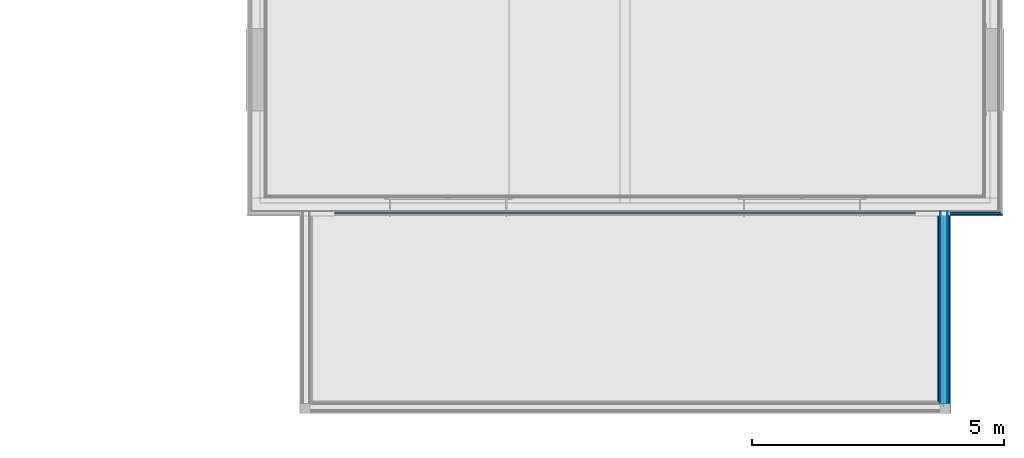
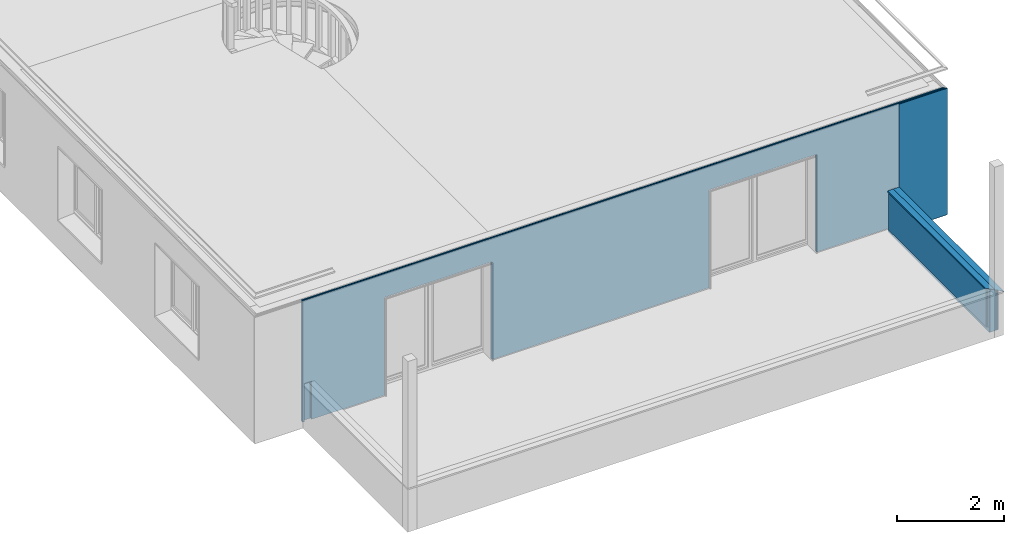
# One storey, part 15 of 36: 14 building element parts, 2 openings, 6 elements without a shape of their own.
"""IFC4 building model written with IfcOpenShell, lengths in millimetres."""

import ifcopenshell
import ifcopenshell.guid

model = None  # the IFC model being written
_history = None  # IfcOwnerHistory: only IFC2X3 demands one
_inside = {}  # id of a spatial element -> (the spatial element, [elements in it])
_under = {}  # id of a project, library or spatial element -> (it, [spatial elements below it])
_declared = {}  # id of a project -> (the project, [libraries it declares])
_typed = {}  # id of a type object -> (the type object, [elements of that type])
_made_of = {}  # id of a material, layer set ... -> (it, [elements and type objects made of it])


def new_model(schema):
    """Start an empty IFC model of exactly this schema.

    Asked for "IFC4X3", IfcOpenShell would pick the latest addendum, in which some entities
    have other attributes; the version numbers below select the first issue.
    IFC2X3 requires an IfcOwnerHistory on every rooted entity: one is made here for all.
    """
    global model, _history
    if schema == "IFC4X3":
        model = ifcopenshell.file(schema_version=(4, 3, 0, 0))
    else:
        model = ifcopenshell.file(schema=schema)
    _inside.clear()
    _under.clear()
    _declared.clear()
    _typed.clear()
    _made_of.clear()
    _history = None
    if model.schema == "IFC2X3":
        org = make("IfcOrganization", Name="unknown")
        user = make(
            "IfcPersonAndOrganization",
            ThePerson=make("IfcPerson", FamilyName="unknown"),
            TheOrganization=org,
        )
        app = make(
            "IfcApplication",
            ApplicationDeveloper=org,
            Version="unknown",
            ApplicationFullName="unknown",
            ApplicationIdentifier="unknown",
        )
        _history = make(
            "IfcOwnerHistory",
            OwningUser=user,
            OwningApplication=app,
            ChangeAction="ADDED",
            CreationDate=0,
        )
    return model


def make(cls, **values):
    """One entity of the class cls with the attributes given. An attribute that is None is left unset."""
    return model.create_entity(
        cls, **{name: value for name, value in values.items() if value is not None}
    )


def entity(cls, *values):
    """Any entity or typed value of the class cls, its attributes in the order of the schema. None: left unset."""
    e = model.create_entity(cls)
    for i, value in enumerate(values):
        if value is not None:
            e[i] = value
    return e


def rooted(cls, **values):
    """An entity with a GlobalId (a new one), such as an element, a storey or a relation."""
    return make(cls, GlobalId=ifcopenshell.guid.new(), OwnerHistory=_history, **values)


def si_unit(unit_type, name, prefix=None):
    """IfcSIUnit, for example si_unit("LENGTHUNIT", "METRE", prefix="MILLI")."""
    return make("IfcSIUnit", UnitType=unit_type, Prefix=prefix, Name=name)


def converted_unit(unit_type, name, factor, base, dimensions=None, offset=None):
    """IfcConversionBasedUnit, such as the inch: factor (a typed value) times the base unit."""
    return make(
        "IfcConversionBasedUnit"
        if offset is None
        else "IfcConversionBasedUnitWithOffset",
        ConversionOffset=offset,
        Dimensions=None
        if dimensions is None
        else entity("IfcDimensionalExponents", *dimensions),
        UnitType=unit_type,
        Name=name,
        ConversionFactor=make(
            "IfcMeasureWithUnit", ValueComponent=factor, UnitComponent=base
        ),
    )


def derived_unit(unit_type, elements):
    """IfcDerivedUnit: a product of units, each with its exponent."""
    return make(
        "IfcDerivedUnit",
        Elements=[
            make("IfcDerivedUnitElement", Unit=unit, Exponent=power)
            for unit, power in elements
        ],
        UnitType=unit_type,
    )


def assignment(units):
    """IfcUnitAssignment: the units of a project."""
    return None if units is None else make("IfcUnitAssignment", Units=units)


def point(xyz):
    """IfcCartesianPoint."""
    return None if xyz is None else make("IfcCartesianPoint", Coordinates=xyz)


def direction(xyz):
    """IfcDirection."""
    return None if xyz is None else make("IfcDirection", DirectionRatios=xyz)


def frame(location, z_axis=None, x_axis=None):
    """IfcAxis2Placement3D, a coordinate frame: its origin and axes. An axis left out is left unset."""
    return make(
        "IfcAxis2Placement3D",
        Location=point(location),
        Axis=direction(z_axis),
        RefDirection=direction(x_axis),
    )


def origin_with_axes():
    """The frame at (0, 0, 0) with the z axis (0, 0, 1) and the x axis (1, 0, 0) written out."""
    return frame((0.0, 0.0, 0.0), z_axis=(0.0, 0.0, 1.0), x_axis=(1.0, 0.0, 0.0))


def place(relative_to, where):
    """IfcLocalPlacement: puts the frame where relative to a parent placement (None: the world)."""
    return make(
        "IfcLocalPlacement", PlacementRelTo=relative_to, RelativePlacement=where
    )


def context(
    kind, dimensions, precision=None, world=None, true_north=None, identifier=None
):
    """IfcGeometricRepresentationContext, for example the 3D "Model" context."""
    return make(
        "IfcGeometricRepresentationContext",
        ContextIdentifier=identifier,
        ContextType=kind,
        CoordinateSpaceDimension=dimensions,
        Precision=precision,
        WorldCoordinateSystem=world,
        TrueNorth=true_north,
    )


def subcontext(parent, identifier, kind, view, scale=None):
    """IfcGeometricRepresentationSubContext, for example "Body" below "Model"."""
    return make(
        "IfcGeometricRepresentationSubContext",
        ContextIdentifier=identifier,
        ContextType=kind,
        ParentContext=parent,
        TargetScale=scale,
        TargetView=view,
    )


def project(units=None, contexts=None):
    """IfcProject with its units and contexts."""
    return rooted(
        "IfcProject",
        Name="project",
        RepresentationContexts=contexts,
        UnitsInContext=assignment(units),
    )


def spatial(cls, under=None, at=None, **own):
    """A site, building, storey or space (cls), placed at a placement, below another one or the project."""
    s = rooted(cls, ObjectPlacement=at, **own)
    if under is not None:
        _under.setdefault(under.id(), (under, []))[1].append(s)
    return s


def point_list(points):
    """IfcCartesianPointList2D or 3D."""
    cls = (
        "IfcCartesianPointList2D" if len(points[0]) == 2 else "IfcCartesianPointList3D"
    )
    return make(cls, CoordList=points)


def polygons(points, faces, closed=None, point_numbers=None):
    """IfcPolygonalFaceSet: a face is its outer loop, then its inner loops; points numbered from 1."""
    made = []
    for loops in faces:
        if len(loops) == 1:
            made.append(make("IfcIndexedPolygonalFace", CoordIndex=loops[0]))
        else:
            made.append(
                make(
                    "IfcIndexedPolygonalFaceWithVoids",
                    CoordIndex=loops[0],
                    InnerCoordIndices=loops[1:],
                )
            )
    return make(
        "IfcPolygonalFaceSet",
        Coordinates=point_list(points),
        Closed=closed,
        Faces=made,
        PnIndex=point_numbers,
    )


def shape(context_of_items, identifier, shape_type, items):
    """IfcShapeRepresentation: the items that make up one representation, for example the "Body"."""
    return make(
        "IfcShapeRepresentation",
        ContextOfItems=context_of_items,
        RepresentationIdentifier=identifier,
        RepresentationType=shape_type,
        Items=items,
    )


def material(Name=None, Category=None):
    """IfcMaterial."""
    return make("IfcMaterial", Name=Name, Category=Category)


def made_of(thing, what):
    """Note that an element or type object is made of a material, layer set ...; save() writes the relation."""
    if what is not None:
        _made_of.setdefault(what.id(), (what, []))[1].append(thing)
    return thing


def type_object(cls, material=None, **own):
    """A type object (cls), such as IfcWallType, which elements share."""
    return made_of(rooted(cls, **own), material)


def element(
    cls,
    number,
    at=None,
    inside=None,
    cuts=None,
    type_object=None,
    material=None,
    context=None,
    identifier="Body",
    shape_type=None,
    held_by="IfcProductDefinitionShape",
    body=None,
    shapes=None,
    **own,
):
    """One element of the class cls, such as IfcWall. Its Tag is "e" and its number.

    at: its placement. inside: the storey or other place that contains it. cuts: it is an
    opening in that element (IfcRelVoidsElement). A single representation is given by context,
    identifier, shape_type and body (its items); several are given by shapes. held_by: the class
    of the entity that holds the representations. save() writes the other relations.
    """
    e = rooted(cls, Tag="e%d" % number, ObjectPlacement=at, **own)
    if body is not None:
        shapes = [shape(context, identifier, shape_type, body)]
    if shapes is not None:
        e.Representation = make(held_by, Representations=shapes)
    if inside is not None:
        _inside.setdefault(inside.id(), (inside, []))[1].append(e)
    if cuts is not None:
        rooted(
            "IfcRelVoidsElement", RelatingBuildingElement=cuts, RelatedOpeningElement=e
        )
    if type_object is not None:
        _typed.setdefault(type_object.id(), (type_object, []))[1].append(e)
    return made_of(e, material)


def aggregate(whole, parts):
    """IfcRelAggregates: a whole, such as a stair, and the parts it consists of."""
    return rooted("IfcRelAggregates", RelatingObject=whole, RelatedObjects=parts)


def save(model, path):
    """Write the relations noted so far, then the file.

    IfcRelAggregates (storeys below a building ...), IfcRelContainedInSpatialStructure (elements
    in a storey), IfcRelDefinesByType, IfcRelAssociatesMaterial and IfcRelDeclares: one each for
    every whole, place, type object, material and project.
    """
    for whole, parts in _under.values():
        aggregate(whole, parts)
    for where, things in _inside.values():
        rooted(
            "IfcRelContainedInSpatialStructure",
            RelatedElements=things,
            RelatingStructure=where,
        )
    for kind, things in _typed.values():
        rooted("IfcRelDefinesByType", RelatedObjects=things, RelatingType=kind)
    for what, things in _made_of.values():
        rooted("IfcRelAssociatesMaterial", RelatedObjects=things, RelatingMaterial=what)
    for by, libraries in _declared.values():
        rooted("IfcRelDeclares", RelatingContext=by, RelatedDefinitions=libraries)
    model.write(path)


model = new_model("IFC4")

# Units and contexts
model_context = context("Model", 3, precision=0.01, world=origin_with_axes(), true_north=direction((0.0, 1.0)))
body_context = subcontext(model_context, "Body", "Model", "MODEL_VIEW")
ifc_project = project(units=[si_unit("LENGTHUNIT", "METRE", prefix="MILLI"), si_unit("AREAUNIT", "SQUARE_METRE"), si_unit("VOLUMEUNIT", "CUBIC_METRE"), converted_unit("PLANEANGLEUNIT", "DEGREE", entity("IfcPlaneAngleMeasure", 0.0174532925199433), si_unit("PLANEANGLEUNIT", "RADIAN"), dimensions=[0, 0, 0, 0, 0, 0, 0]), converted_unit("TIMEUNIT", "Year", entity("IfcTimeMeasure", 31557600.0), si_unit("TIMEUNIT", "SECOND"), dimensions=[0, 0, 1, 0, 0, 0, 0]), si_unit("MASSUNIT", "GRAM", prefix="KILO"), si_unit("THERMODYNAMICTEMPERATUREUNIT", "DEGREE_CELSIUS"), si_unit("LUMINOUSINTENSITYUNIT", "LUMEN"), si_unit("ENERGYUNIT", "JOULE", prefix="MEGA"), derived_unit("THERMALCONDUCTANCEUNIT", [(si_unit("POWERUNIT", "WATT"), 1), (si_unit("LENGTHUNIT", "METRE"), -1), (si_unit("THERMODYNAMICTEMPERATUREUNIT", "KELVIN"), -1)]), derived_unit("SPECIFICHEATCAPACITYUNIT", [(si_unit("ENERGYUNIT", "JOULE"), 1), (si_unit("MASSUNIT", "GRAM", prefix="KILO"), -1), (si_unit("THERMODYNAMICTEMPERATUREUNIT", "KELVIN"), -1)]), derived_unit("MASSDENSITYUNIT", [(si_unit("MASSUNIT", "GRAM", prefix="KILO"), 1), (si_unit("VOLUMEUNIT", "CUBIC_METRE"), -1)])], contexts=[model_context])

# Site, building, storey
site_placement = place(None, origin_with_axes())
site = spatial("IfcSite", under=ifc_project, at=site_placement, Name="Gelände", CompositionType="ELEMENT")
building_placement = place(site_placement, origin_with_axes())
building = spatial("IfcBuilding", under=site, at=building_placement, Name="Gebäude", CompositionType="ELEMENT")
storey_placement = place(building_placement, frame((0.0, 0.0, 8700.0), z_axis=(0.0, 0.0, 1.0), x_axis=(1.0, 0.0, 0.0)))
storey = spatial("IfcBuildingStorey", under=building, at=storey_placement, Name="Attika", CompositionType="ELEMENT", Elevation=8700.0)

# Curtain wall, openings, building element parts
curtain_wall_type_1 = type_object("IfcCurtainWallType", Name="Fassade Typ 02 - Vertikale Schalung 71", PredefinedType="NOTDEFINED")
curtain_wall_1_placement = place(storey_placement, frame((31882.9974188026, 8447.597281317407, 620.000000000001), z_axis=(0.0, 0.0, 1.0), x_axis=(-1.0, 0.0, 0.0)))
curtain_wall_1 = element("IfcCurtainWall", 1, at=curtain_wall_1_placement, inside=storey, type_object=curtain_wall_type_1, Name="Wand-014", PredefinedType="NOTDEFINED")
opening_1_placement = place(curtain_wall_1_placement, frame((9967.33330736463, 0.0, -9.124079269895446e-08), z_axis=(0.0, 0.0, 1.0), x_axis=(1.0, 0.0, 0.0)))
element("IfcOpeningElement", 2, at=opening_1_placement, cuts=curtain_wall_1, Name="Fenster-004", context=body_context, identifier="Reference", shape_type="Tessellation", body=[
    polygons([(1166.000000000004, 1.000000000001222, 2241.000000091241), (1166.000000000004, 1.000000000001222, 9.124079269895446e-08), (-1166.000000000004, 1.000000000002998, 9.124079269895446e-08), (-1166.000000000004, 1.000000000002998, 2241.000000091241), (1166.000000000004, -72.00000000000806, 2241.000000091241), (1166.000000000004, -72.00000000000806, 9.124079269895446e-08), (-1166.000000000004, -72.00000000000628, 9.124079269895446e-08), (-1166.000000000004, -72.00000000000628, 2241.000000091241)], [[[1, 2, 3, 4]], [[5, 6, 2, 1]], [[6, 7, 3, 2]], [[7, 8, 4, 3]], [[8, 5, 1, 4]], [[7, 6, 5, 8]]], closed=True),
])
opening_2_placement = place(curtain_wall_1_placement, frame((2940.666641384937, 0.0, -9.124079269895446e-08), z_axis=(0.0, 0.0, 1.0), x_axis=(1.0, 0.0, 0.0)))
element("IfcOpeningElement", 3, at=opening_2_placement, cuts=curtain_wall_1, Name="Fenster-004", context=body_context, identifier="Reference", shape_type="Tessellation", body=[
    polygons([(1166.0, 1.000000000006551, 2241.000000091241), (1166.0, 1.000000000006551, 9.124079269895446e-08), (-1166.0, 1.000000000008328, 9.124079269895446e-08), (-1166.0, 1.000000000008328, 2241.000000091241), (1166.0, -72.00000000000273, 2241.000000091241), (1166.0, -72.00000000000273, 9.124079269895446e-08), (-1166.0, -72.00000000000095, 9.124079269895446e-08), (-1166.0, -72.00000000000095, 2241.000000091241)], [[[1, 2, 3, 4]], [[5, 6, 2, 1]], [[6, 7, 3, 2]], [[7, 8, 4, 3]], [[8, 5, 1, 4]], [[7, 6, 5, 8]]], closed=True),
])
ifc_material_1 = material(Name="Lattenrost horizontal")
building_element_part_1_placement = place(curtain_wall_1_placement, origin_with_axes())
building_element_part_1 = element("IfcBuildingElementPart", 4, at=building_element_part_1_placement, material=ifc_material_1, Name="Lattenrost horizontal", PredefinedType="NOTDEFINED", context=body_context, shape_type="Tessellation", body=[
    polygons([(4106.666641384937, -45.99999999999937, 2241.0), (4106.666641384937, -45.99999999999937, 0.09989593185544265), (4106.666641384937, -45.99999999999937, 0.0), (8801.33330736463, -46.00000000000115, 0.0), (8801.333307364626, -45.99999999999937, 0.09989593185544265), (8801.333307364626, -45.99999999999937, 2241.0), (11133.33330736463, -45.99999999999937, 2241.0), (11133.33330736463, -45.99999999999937, 0.09989593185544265), (11133.33330736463, -46.00000000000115, 0.0), (12711.9999234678, -46.00000000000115, 0.0), (12711.9999234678, -46.00000000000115, 879.9998959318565), (12861.9999234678, -46.00000000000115, 879.9998959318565), (12861.9999234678, -46.00000000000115, 0.0), (12907.99994874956, -46.00000000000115, 0.0), (12907.99994874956, -46.00000000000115, 2780.000000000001), (0.0, -45.99999999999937, 2780.000000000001), (0.0, -45.99999999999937, 0.0), (46.00002528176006, -45.99999999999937, 0.0), (46.00002528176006, -45.99999999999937, 879.9998959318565), (196.0000252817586, -45.99999999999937, 879.9998959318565), (196.0000252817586, -45.99999999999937, 0.0), (1774.666641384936, -45.99999999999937, 0.0), (1774.666641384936, -45.99999999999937, 0.09989593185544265), (1774.666641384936, -45.99999999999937, 2241.0), (4106.666641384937, -21.0000000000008, 2241.0), (4106.666641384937, -21.0000000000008, 0.09989593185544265), (4106.666641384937, -21.0000000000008, 0.0), (8801.33330736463, -21.0000000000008, 0.0), (8801.333307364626, -21.0000000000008, 0.09989593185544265), (8801.333307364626, -21.0000000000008, 2241.0), (11133.33330736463, -21.0000000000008, 2241.0), (11133.33330736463, -21.0000000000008, 0.09989593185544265), (11133.33330736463, -21.0000000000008, 0.0), (12711.9999234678, -21.0000000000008, 0.0), (12711.9999234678, -21.0000000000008, 879.9998959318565), (12861.9999234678, -21.0000000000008, 879.9998959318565), (12861.9999234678, -21.0000000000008, 0.0), (12907.99994874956, -21.0000000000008, 0.0), (12907.99994874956, -21.0000000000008, 2780.000000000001), (0.0, -20.99999999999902, 2780.000000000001), (0.0, -21.0000000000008, 0.0), (46.00002528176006, -21.0000000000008, 0.0), (46.00002528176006, -21.0000000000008, 879.9998959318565), (196.0000252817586, -21.0000000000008, 879.9998959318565), (196.0000252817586, -21.0000000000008, 0.0), (1774.666641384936, -21.0000000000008, 0.0), (1774.666641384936, -21.0000000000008, 0.09989593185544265), (1774.666641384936, -21.0000000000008, 2241.0)], [[[1, 2, 3, 4, 5, 6, 7, 8, 9, 10, 11, 12, 13, 14, 15, 16, 17, 18, 19, 20, 21, 22, 23, 24]], [[2, 1, 25, 26]], [[2, 26, 27, 3]], [[3, 27, 28, 4]], [[5, 4, 28, 29]], [[5, 29, 30, 6]], [[6, 30, 31, 7]], [[7, 31, 32, 8]], [[32, 33, 9, 8]], [[34, 10, 9, 33]], [[10, 34, 35, 11]], [[35, 36, 12, 11]], [[12, 36, 37, 13]], [[37, 38, 14, 13]], [[15, 14, 38, 39]], [[15, 39, 40, 16]], [[16, 40, 41, 17]], [[18, 17, 41, 42]], [[18, 42, 43, 19]], [[43, 44, 20, 19]], [[20, 44, 45, 21]], [[21, 45, 46, 22]], [[47, 23, 22, 46]], [[24, 23, 47, 48]], [[1, 24, 48, 25]], [[48, 47, 46, 45, 44, 43, 42, 41, 40, 39, 38, 37, 36, 35, 34, 33, 32, 31, 30, 29, 28, 27, 26, 25]]], closed=True),
])
ifc_material_2 = material(Name="Lattenrost vertikal")
building_element_part_2_placement = place(curtain_wall_1_placement, origin_with_axes())
building_element_part_2 = element("IfcBuildingElementPart", 5, at=building_element_part_2_placement, material=ifc_material_2, Name="Lattenrost vertikal", PredefinedType="NOTDEFINED", context=body_context, shape_type="Tessellation", body=[
    polygons([(4106.666641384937, -70.99999999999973, 2241.0), (4106.666641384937, -70.99999999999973, 0.09989593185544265), (4106.666641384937, -70.99999999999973, 0.0), (8801.33330736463, -70.99999999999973, 0.0), (8801.333307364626, -70.99999999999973, 0.09989593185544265), (8801.333307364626, -70.99999999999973, 2241.0), (11133.33330736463, -70.99999999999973, 2241.0), (11133.33330736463, -70.99999999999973, 0.09989593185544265), (11133.33330736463, -70.99999999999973, 0.0), (12907.99994874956, -71.0000000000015, 0.0), (12907.99994874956, -71.0000000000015, 2780.000000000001), (0.0, -70.99999999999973, 2780.000000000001), (0.0, -70.99999999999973, 0.0), (1774.666641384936, -70.99999999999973, 0.0), (1774.666641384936, -70.99999999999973, 0.09989593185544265), (1774.666641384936, -70.99999999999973, 2241.0), (4106.666641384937, -45.99999999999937, 2241.0), (4106.666641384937, -45.99999999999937, 0.09989593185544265), (4106.666641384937, -45.99999999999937, 0.0), (8801.33330736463, -46.00000000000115, 0.0), (8801.333307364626, -45.99999999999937, 0.09989593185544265), (8801.333307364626, -45.99999999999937, 2241.0), (11133.33330736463, -45.99999999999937, 2241.0), (11133.33330736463, -45.99999999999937, 0.09989593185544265), (11133.33330736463, -46.00000000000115, 0.0), (12711.9999234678, -46.00000000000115, 0.0), (12711.9999234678, -70.89999999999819, 0.0), (12861.9999234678, -70.89999999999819, 0.0), (12861.9999234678, -46.00000000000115, 0.0), (12907.99994874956, -46.00000000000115, 0.0), (12907.99994874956, -46.00000000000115, 2780.000000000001), (0.0, -45.99999999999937, 2780.000000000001), (0.0, -45.99999999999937, 0.0), (46.00002528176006, -45.99999999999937, 0.0), (46.00002528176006, -70.89999999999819, 0.0), (196.0000252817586, -70.89999999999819, 0.0), (196.0000252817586, -45.99999999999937, 0.0), (1774.666641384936, -45.99999999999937, 0.0), (1774.666641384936, -45.99999999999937, 0.09989593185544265), (1774.666641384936, -45.99999999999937, 2241.0), (196.0000252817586, -45.99999999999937, 879.9998959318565), (46.00002528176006, -45.99999999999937, 879.9998959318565), (12861.9999234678, -46.00000000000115, 879.9998959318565), (12711.9999234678, -46.00000000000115, 879.9998959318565), (12711.9999234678, -70.89999999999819, 879.9998959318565), (12861.9999234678, -70.89999999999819, 879.9998959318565), (46.00002528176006, -70.89999999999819, 879.9998959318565), (196.0000252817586, -70.89999999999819, 879.9998959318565)], [[[1, 2, 3, 4, 5, 6, 7, 8, 9, 10, 11, 12, 13, 14, 15, 16]], [[2, 1, 17, 18]], [[2, 18, 19, 3]], [[3, 19, 20, 4]], [[5, 4, 20, 21]], [[5, 21, 22, 6]], [[6, 22, 23, 7]], [[7, 23, 24, 8]], [[24, 25, 9, 8]], [[26, 27, 28, 29, 30, 10, 9, 25]], [[11, 10, 30, 31]], [[11, 31, 32, 12]], [[12, 32, 33, 13]], [[13, 33, 34, 35, 36, 37, 38, 14]], [[39, 15, 14, 38]], [[16, 15, 39, 40]], [[1, 16, 40, 17]], [[40, 39, 38, 37, 41, 42, 34, 33, 32, 31, 30, 29, 43, 44, 26, 25, 24, 23, 22, 21, 20, 19, 18, 17]], [[26, 44, 45, 27]], [[45, 46, 28, 27]], [[28, 46, 43, 29]], [[34, 42, 47, 35]], [[47, 48, 36, 35]], [[36, 48, 41, 37]], [[42, 41, 48, 47]], [[44, 43, 46, 45]]], closed=True),
])
aggregate(curtain_wall_1, [building_element_part_1, building_element_part_2])

# Curtain wall, building element parts
curtain_wall_2_placement = place(storey_placement, frame((32928.99744477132, 8447.597281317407, 500.0000000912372), z_axis=(0.0, 0.0, 1.0), x_axis=(-1.0, 0.0, 0.0)))
curtain_wall_2 = element("IfcCurtainWall", 6, at=curtain_wall_2_placement, inside=storey, type_object=curtain_wall_type_1, Name="Wand-014", PredefinedType="NOTDEFINED")
ifc_material_3 = material(Name="Falzschalung vertikal")
building_element_part_3_placement = place(curtain_wall_2_placement, origin_with_axes())
building_element_part_3 = element("IfcBuildingElementPart", 7, at=building_element_part_3_placement, material=ifc_material_3, Name="Falzschalung vertikal", PredefinedType="NOTDEFINED", context=body_context, shape_type="Tessellation", body=[
    polygons([(21.00000163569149, -21.0000000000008, 4.75006812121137), (0.0, -21.0000000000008, 2.677007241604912), (0.0, -21.0000000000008, 0.0), (1046.000025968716, -21.0000000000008, 0.0), (1046.000026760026, -21.0000000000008, 4.750068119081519), (8.182894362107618e-07, 8.18285883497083e-07, 2.67700732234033), (0.0, 0.0, 0.0), (1046.000025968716, 0.0, 0.0), (1046.000026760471, 0.0, 2.677007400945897)], [[[1, 2, 3, 4, 5]], [[6, 2, 1]], [[2, 6, 7, 3]], [[7, 8, 4, 3]], [[9, 5, 4, 8]], [[6, 1, 5, 9]], [[6, 9, 8, 7]]], closed=True),
    polygons([(8.182894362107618e-07, 8.182876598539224e-07, 5.507264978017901), (0.0, -21.0000000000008, 5.507264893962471), (0.0, -20.99999999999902, 2899.999999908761), (0.0, 0.0, 2899.999999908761), (21.00000163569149, -21.0000000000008, 7.665565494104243), (1046.000026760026, -21.0000000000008, 7.665565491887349), (1046.000025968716, -20.99999999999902, 2899.999999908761), (1046.000025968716, 0.0, 2899.999999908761), (1046.000026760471, 0.0, 5.50726505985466)], [[[1, 2, 3, 4]], [[5, 2, 1]], [[2, 5, 6, 7, 3]], [[3, 7, 8, 4]], [[9, 1, 4, 8]], [[5, 1, 9, 6]], [[6, 9, 8, 7]]], closed=True),
])
building_element_part_4_placement = place(curtain_wall_2_placement, origin_with_axes())
building_element_part_4 = element("IfcBuildingElementPart", 8, at=building_element_part_4_placement, material=ifc_material_1, Name="Lattenrost horizontal", PredefinedType="NOTDEFINED", context=body_context, shape_type="Tessellation", body=[
    polygons([(46.00000163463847, -46.00000000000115, 7.21799754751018), (21.0000000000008, -45.99999999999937, 4.750067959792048), (21.0000000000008, -45.99999999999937, 0.0), (1046.000025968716, -45.99999999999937, 0.0), (1046.000026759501, -45.99999999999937, 7.217997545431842), (21.00000081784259, -20.99999918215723, 4.750068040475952), (21.0000000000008, -21.0000000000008, 0.0), (1046.000025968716, -21.0000000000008, 0.0), (1046.000026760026, -21.0000000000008, 4.750068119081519)], [[[1, 2, 3, 4, 5]], [[6, 2, 1]], [[2, 6, 7, 3]], [[7, 8, 4, 3]], [[9, 5, 4, 8]], [[6, 1, 5, 9]], [[6, 9, 8, 7]]], closed=True),
    polygons([(21.0000008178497, -20.99999918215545, 7.665565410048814), (21.0000000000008, -45.99999999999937, 7.665565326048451), (21.0000000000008, -45.99999999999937, 2899.999999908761), (21.0000000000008, -20.99999999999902, 2899.999999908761), (46.00000163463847, -45.99999999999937, 10.23497077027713), (1046.000026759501, -45.99999999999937, 10.23497076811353), (1046.000025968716, -45.99999999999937, 2899.999999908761), (1046.000025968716, -20.99999999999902, 2899.999999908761), (1046.000026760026, -21.0000000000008, 7.665565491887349)], [[[1, 2, 3, 4]], [[5, 2, 1]], [[2, 5, 6, 7, 3]], [[3, 7, 8, 4]], [[9, 1, 4, 8]], [[5, 1, 9, 6]], [[6, 9, 8, 7]]], closed=True),
])
building_element_part_5_placement = place(curtain_wall_2_placement, origin_with_axes())
building_element_part_5 = element("IfcBuildingElementPart", 9, at=building_element_part_5_placement, material=ifc_material_2, Name="Lattenrost vertikal", PredefinedType="NOTDEFINED", context=body_context, shape_type="Tessellation", body=[
    polygons([(71.0000014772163, -70.99999984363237, 9.685926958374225), (45.99999999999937, -70.99999999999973, 7.217997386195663), (45.99999999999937, -70.99999999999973, 0.0), (1046.000025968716, -70.99999999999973, 0.0), (1046.000026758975, -70.99999986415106, 9.685926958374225), (46.00000081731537, -45.99999918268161, 7.217997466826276), (45.99999999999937, -45.99999999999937, 0.0), (1046.000025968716, -45.99999999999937, 0.0), (1046.000026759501, -45.99999999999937, 7.217997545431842)], [[[1, 2, 3, 4, 5]], [[6, 2, 1]], [[2, 6, 7, 3]], [[7, 8, 4, 3]], [[9, 5, 4, 8]], [[6, 1, 5, 9]], [[6, 9, 8, 7]]], closed=True),
    polygons([(46.00000081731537, -45.99999918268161, 10.23497068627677), (45.99999999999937, -70.99999999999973, 10.2349706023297), (45.99999999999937, -70.99999999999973, 2899.999999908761), (45.99999999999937, -45.99999999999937, 2899.999999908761), (68.30000031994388, -70.99999999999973, 12.52688014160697), (68.30000032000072, -68.2999986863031, 12.52688014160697), (68.30000031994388, -70.99999999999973, 42.69563016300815), (71.0000014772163, -70.99999984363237, 42.69563016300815), (1046.000026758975, -70.99999986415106, 42.69563016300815), (1046.000025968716, -70.99999999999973, 2899.999999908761), (1046.000025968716, -45.99999999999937, 2899.999999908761), (1046.000026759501, -45.99999999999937, 10.23497076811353), (1046.000026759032, -68.29999870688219, 12.52688014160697), (68.30000032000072, -68.2999986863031, 42.69563016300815), (1046.000026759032, -68.29999870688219, 42.69563016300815)], [[[1, 2, 3, 4]], [[5, 2, 1, 6]], [[7, 8, 9, 10, 3, 2, 5]], [[3, 10, 11, 4]], [[12, 1, 4, 11]], [[6, 1, 12, 13]], [[7, 5, 6, 14]], [[8, 7, 14, 15, 9]], [[13, 12, 11, 10, 9, 15]], [[14, 6, 13, 15]]], closed=True),
])
aggregate(curtain_wall_2, [building_element_part_3, building_element_part_4, building_element_part_5])

curtain_wall_type_2 = type_object("IfcCurtainWallType", Name="Fassade Typ 03 - Horizontale Schalung 46", PredefinedType="NOTDEFINED")
curtain_wall_3_placement = place(storey_placement, frame((31882.9974188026, 8447.497281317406, 499.9998959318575), z_axis=(0.0, 0.0, 1.0), x_axis=(0.0, -1.0, 0.0)))
curtain_wall_3 = element("IfcCurtainWall", 10, at=curtain_wall_3_placement, inside=storey, type_object=curtain_wall_type_2, Name="Wand-017", PredefinedType="NOTDEFINED")
ifc_material_4 = material(Name="Falzschalung horizontal")
building_element_part_6_placement = place(curtain_wall_3_placement, origin_with_axes())
building_element_part_6 = element("IfcBuildingElementPart", 11, at=building_element_part_6_placement, material=ifc_material_4, Name="Falzschalung horizontal", PredefinedType="NOTDEFINED", context=body_context, shape_type="Tessellation", body=[
    polygons([(0.0, 0.0, 1000.0), (0.0, -21.0000000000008, 1000.0), (3728.899999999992, -21.0000000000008, 1000.0), (3728.899999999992, 0.0, 1000.0), (0.0, 0.0, 0.0), (0.0, -21.0000000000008, 0.0), (3728.899999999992, -21.0000000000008, 0.0), (3728.899999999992, 0.0, 0.0)], [[[1, 2, 3, 4]], [[5, 6, 2, 1]], [[2, 6, 7, 3]], [[8, 4, 3, 7]], [[5, 1, 4, 8]], [[6, 5, 8, 7]]], closed=True),
])
building_element_part_7_placement = place(curtain_wall_3_placement, origin_with_axes())
building_element_part_7 = element("IfcBuildingElementPart", 12, at=building_element_part_7_placement, material=ifc_material_2, Name="Lattenrost vertikal", PredefinedType="NOTDEFINED", context=body_context, shape_type="Tessellation", body=[
    polygons([(0.0, -21.0000000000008, 1000.0), (0.0, -45.99999999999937, 1000.0), (3728.899999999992, -45.99999999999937, 1000.0), (3728.899999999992, -21.0000000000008, 1000.0), (0.0, -21.0000000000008, 0.0), (0.0, -45.99999999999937, 0.0), (3728.899999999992, -45.99999999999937, 0.0), (3728.899999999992, -21.0000000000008, 0.0)], [[[1, 2, 3, 4]], [[5, 6, 2, 1]], [[2, 6, 7, 3]], [[8, 4, 3, 7]], [[5, 1, 4, 8]], [[6, 5, 8, 7]]], closed=True),
])
aggregate(curtain_wall_3, [building_element_part_6, building_element_part_7])

curtain_wall_4_placement = place(storey_placement, frame((31640.99739752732, 8426.547059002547, 619.9998959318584), z_axis=(0.0, 0.0, 1.0), x_axis=(0.0, -1.0, 0.0)))
curtain_wall_4 = element("IfcCurtainWall", 13, at=curtain_wall_4_placement, inside=storey, type_object=curtain_wall_type_2, Name="Wand-017", PredefinedType="NOTDEFINED")
building_element_part_8_placement = place(curtain_wall_4_placement, origin_with_axes())
building_element_part_8 = element("IfcBuildingElementPart", 14, at=building_element_part_8_placement, material=ifc_material_4, Name="Falzschalung horizontal", PredefinedType="NOTDEFINED", context=body_context, shape_type="Tessellation", body=[
    polygons([(3665.949777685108, 21.0000000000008, 879.999999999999), (3665.949777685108, 21.0000000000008, 0.09999999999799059), (0.0, 21.0000000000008, 0.09999999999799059), (0.0, 21.0000000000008, 879.999999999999), (3665.949777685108, 0.0, 879.999999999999), (3665.949777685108, 0.0, 0.09999999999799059), (0.0, 0.0, 0.09999999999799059), (0.0, 0.0, 879.999999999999)], [[[1, 2, 3, 4]], [[5, 6, 2, 1]], [[6, 7, 3, 2]], [[4, 3, 7, 8]], [[8, 5, 1, 4]], [[8, 7, 6, 5]]], closed=True),
])
building_element_part_9_placement = place(curtain_wall_4_placement, origin_with_axes())
building_element_part_9 = element("IfcBuildingElementPart", 15, at=building_element_part_9_placement, material=ifc_material_2, Name="Lattenrost vertikal", PredefinedType="NOTDEFINED", context=body_context, shape_type="Tessellation", body=[
    polygons([(3686.949777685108, 45.99999999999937, 0.0), (3686.949777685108, 21.0000000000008, 0.0), (0.0, 21.0000000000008, 0.0), (0.0, 45.99999999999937, 0.0), (3686.949777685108, 45.99999999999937, 879.999999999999), (3686.949777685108, 21.0000000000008, 879.999999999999), (0.0, 21.0000000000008, 879.999999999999), (0.0, 45.99999999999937, 879.999999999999)], [[[1, 2, 3, 4]], [[2, 1, 5, 6]], [[2, 6, 7, 3]], [[8, 4, 3, 7]], [[5, 1, 4, 8]], [[6, 5, 8, 7]]], closed=True),
])
aggregate(curtain_wall_4, [building_element_part_8, building_element_part_9])

curtain_wall_type_3 = type_object("IfcCurtainWallType", Name="Brüstungsabdeckung 01 250 x 33", PredefinedType="NOTDEFINED")
curtain_wall_5_placement = place(storey_placement, frame((31761.9974188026, 8447.597281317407, 1499.999895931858), z_axis=(0.0, 0.0, 1.0), x_axis=(-1.0, 0.0, 0.0)))
curtain_wall_5 = element("IfcCurtainWall", 16, at=curtain_wall_5_placement, inside=storey, type_object=curtain_wall_type_3, Name="Unterzug-027", PredefinedType="NOTDEFINED")
ifc_material_5 = material(Name="Stahl")
building_element_part_10_placement = place(curtain_wall_5_placement, origin_with_axes())
building_element_part_10 = element("IfcBuildingElementPart", 17, at=building_element_part_10_placement, material=ifc_material_5, Name="Stahl", PredefinedType="NOTDEFINED", context=body_context, shape_type="Tessellation", body=[
    polygons([(0.0, 3808.000000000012, 2.526754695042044), (0.0, 3808.000000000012, -1.205181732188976e-06), (0.0, 0.0, -1.205181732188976e-06), (0.0, 0.0, 2.526754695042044), (125.0000415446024, 3682.999958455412, 2.526754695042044), (125.0000005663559, 3682.999999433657, -29.99999999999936), (122.2999551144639, 3685.70004488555, -29.99999999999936), (122.2999551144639, 3685.70004488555, -1.205181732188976e-06), (122.2999551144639, 0.0, -1.205181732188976e-06), (122.2999551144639, 0.0, -29.99999999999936), (125.0000005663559, 0.0, -29.99999999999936), (125.0000415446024, 0.0, 2.526754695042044)], [[[1, 2, 3, 4]], [[1, 5, 6, 7, 8, 2]], [[2, 8, 9, 3]], [[4, 3, 9, 10, 11, 12]], [[5, 1, 4, 12]], [[6, 5, 12, 11]], [[7, 6, 11, 10]], [[8, 7, 10, 9]]], closed=True),
])
building_element_part_11_placement = place(curtain_wall_5_placement, origin_with_axes())
building_element_part_11 = element("IfcBuildingElementPart", 18, at=building_element_part_11_placement, material=ifc_material_5, Name="Stahl", PredefinedType="NOTDEFINED", context=body_context, shape_type="Tessellation", body=[
    polygons([(-125.0000415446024, 3933.000041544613, 2.526755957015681), (-125.0, 3933.000000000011, -29.99999999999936), (-125.0, 0.0, -29.99999999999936), (-125.0000415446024, 0.0, 2.526755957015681), (0.0, 3808.000000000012, 2.526755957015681), (0.0, 3808.000000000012, 0.0), (-122.2999537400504, 3930.299953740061, 0.0), (-122.2999537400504, 3930.299953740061, -29.99999999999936), (-122.2999537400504, 0.0, -29.99999999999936), (-122.2999537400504, 0.0, 0.0), (0.0, 0.0, 0.0), (0.0, 0.0, 2.526755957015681)], [[[1, 2, 3, 4]], [[1, 5, 6, 7, 8, 2]], [[2, 8, 9, 3]], [[4, 3, 9, 10, 11, 12]], [[5, 1, 4, 12]], [[6, 5, 12, 11]], [[7, 6, 11, 10]], [[8, 7, 10, 9]]], closed=True),
])
aggregate(curtain_wall_5, [building_element_part_10, building_element_part_11])

# Wall, building element parts
wall_type = type_object("IfcWallType", Name="Aussenwand Typ 02 150", PredefinedType="NOTDEFINED")
wall_placement = place(storey_placement, frame((31836.99739352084, 4718.597281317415, 499.9998959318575), z_axis=(0.0, 0.0, 1.0), x_axis=(0.0, 1.0, 0.0)))
wall = element("IfcWall", 19, at=wall_placement, inside=storey, type_object=wall_type, Name="Wand-017", PredefinedType="NOTDEFINED")
ifc_material_6 = material(Name="Ständer Konstruktion gedämmt")
building_element_part_12_placement = place(wall_placement, origin_with_axes())
building_element_part_12 = element("IfcBuildingElementPart", 20, at=building_element_part_12_placement, material=ifc_material_6, Name="Ständer Konstruktion gedämmt", PredefinedType="NOTDEFINED", context=body_context, shape_type="Tessellation", body=[
    polygons([(0.0, 135.0000000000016, 0.0), (3799.89999999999, 135.0000000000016, 0.0), (3799.89999999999, 15.00000000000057, 0.0), (0.0, 15.00000000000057, 0.0), (0.0, 135.0000000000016, 1000.0), (3799.89999999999, 135.0000000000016, 1000.0), (3799.89999999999, 15.00000000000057, 1000.0), (0.0, 15.00000000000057, 1000.0)], [[[1, 2, 3, 4]], [[5, 6, 2, 1]], [[3, 2, 6, 7]], [[4, 3, 7, 8]], [[5, 1, 4, 8]], [[8, 7, 6, 5]]], closed=True),
])
ifc_material_7 = material(Name="Grobspanplatte-OSB")
building_element_part_13_placement = place(wall_placement, origin_with_axes())
building_element_part_13 = element("IfcBuildingElementPart", 21, at=building_element_part_13_placement, material=ifc_material_7, Name="Grobspanplatte-OSB", PredefinedType="NOTDEFINED", context=body_context, shape_type="Tessellation", body=[
    polygons([(0.0, 149.9999999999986, 0.0), (3799.89999999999, 149.9999999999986, 0.0), (3799.89999999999, 135.0000000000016, 0.0), (0.0, 135.0000000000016, 0.0), (0.0, 149.9999999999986, 1000.0), (3799.89999999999, 149.9999999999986, 1000.0), (3799.89999999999, 135.0000000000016, 1000.0), (0.0, 135.0000000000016, 1000.0)], [[[1, 2, 3, 4]], [[5, 6, 2, 1]], [[3, 2, 6, 7]], [[4, 3, 7, 8]], [[5, 1, 4, 8]], [[8, 7, 6, 5]]], closed=True),
])
building_element_part_14_placement = place(wall_placement, origin_with_axes())
building_element_part_14 = element("IfcBuildingElementPart", 22, at=building_element_part_14_placement, material=ifc_material_7, Name="Grobspanplatte-OSB", PredefinedType="NOTDEFINED", context=body_context, shape_type="Tessellation", body=[
    polygons([(0.0, 15.00000000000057, 0.0), (3799.89999999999, 15.00000000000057, 0.0), (3799.89999999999, 0.0, 0.0), (0.0, 0.0, 0.0), (0.0, 15.00000000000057, 1000.0), (3799.89999999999, 15.00000000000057, 1000.0), (3799.89999999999, 0.0, 1000.0), (0.0, 0.0, 1000.0)], [[[1, 2, 3, 4]], [[5, 6, 2, 1]], [[3, 2, 6, 7]], [[4, 3, 7, 8]], [[5, 1, 4, 8]], [[8, 7, 6, 5]]], closed=True),
])
aggregate(wall, [building_element_part_12, building_element_part_13, building_element_part_14])

save(model, "model.ifc")
